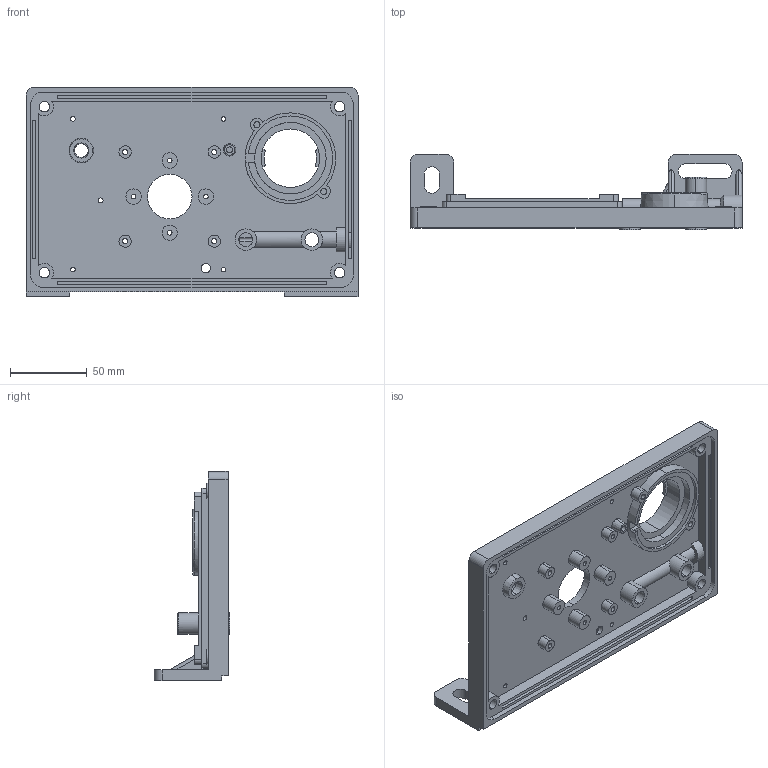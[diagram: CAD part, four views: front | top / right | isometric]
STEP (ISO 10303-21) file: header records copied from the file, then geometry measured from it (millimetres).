
FILE_DESCRIPTION (( 'STEP AP214' ), '1' );
FILE_NAME ('5401000裔啣價釱.STEP', '2024-02-27T04:40:09', ( 'DELL' ), ( '' ), 'SwSTEP 2.0', 'SolidWorks 2021', '' );
FILE_SCHEMA (( 'AUTOMOTIVE_DESIGN' ));
Length unit declared in the file: millimetre
Products named in the file (1): 5401000裔啣價釱
Bounding box: 216 x 49 x 136 mm (x, y, z)
Volume: 190216.6 mm3; surface area: 101366.5 mm2
Topology: 3 solids, 3 shells, 317 faces, 839 edges, 556 vertices
Faces by surface type: cylinder 169, plane 135, cone 9, torus 4
Entity records: 10778 total; most frequent: CARTESIAN_POINT 2079, DIRECTION 1788, ORIENTED_EDGE 1678, EDGE_CURVE 839, AXIS2_PLACEMENT_3D 661, VERTEX_POINT 556, LINE 466, VECTOR 466
